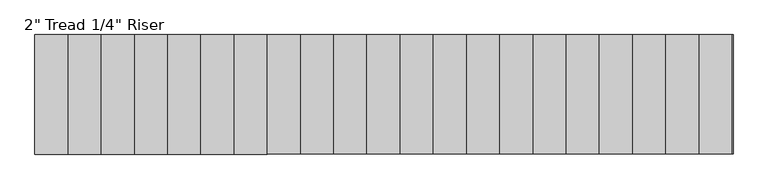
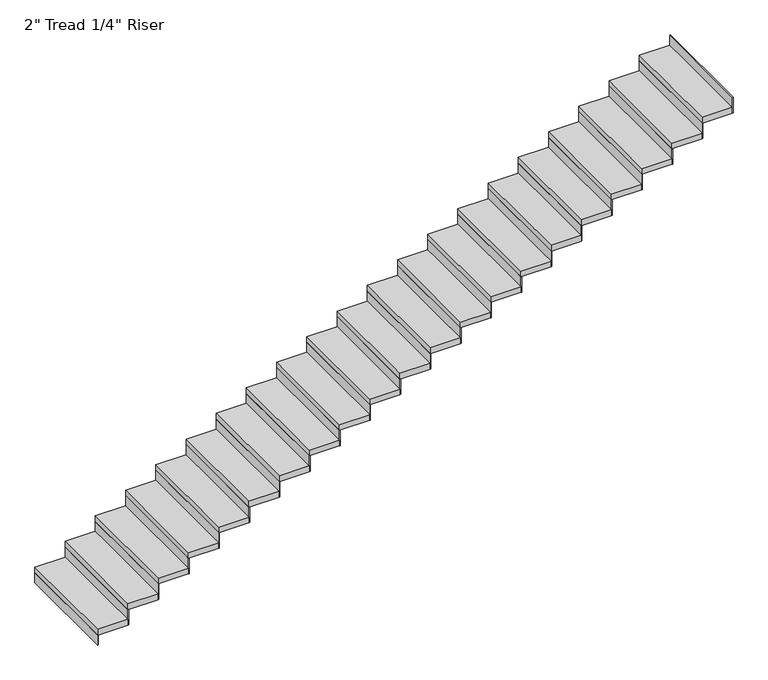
"""IFC4 building model written with IfcOpenShell, lengths in millimetres: stair flight geometry."""

import ifcopenshell
import ifcopenshell.guid

model = None  # the IFC model being written
_history = None  # IfcOwnerHistory: only IFC2X3 demands one
_inside = {}  # id of a spatial element -> (the spatial element, [elements in it])
_under = {}  # id of a project, library or spatial element -> (it, [spatial elements below it])
_declared = {}  # id of a project -> (the project, [libraries it declares])
_typed = {}  # id of a type object -> (the type object, [elements of that type])
_made_of = {}  # id of a material, layer set ... -> (it, [elements and type objects made of it])


def new_model(schema):
    """Start an empty IFC model of exactly this schema.

    Asked for "IFC4X3", IfcOpenShell would pick the latest addendum, in which some entities
    have other attributes; the version numbers below select the first issue.
    IFC2X3 requires an IfcOwnerHistory on every rooted entity: one is made here for all.
    """
    global model, _history
    if schema == "IFC4X3":
        model = ifcopenshell.file(schema_version=(4, 3, 0, 0))
    else:
        model = ifcopenshell.file(schema=schema)
    _inside.clear()
    _under.clear()
    _declared.clear()
    _typed.clear()
    _made_of.clear()
    _history = None
    if model.schema == "IFC2X3":
        org = make("IfcOrganization", Name="unknown")
        user = make(
            "IfcPersonAndOrganization",
            ThePerson=make("IfcPerson", FamilyName="unknown"),
            TheOrganization=org,
        )
        app = make(
            "IfcApplication",
            ApplicationDeveloper=org,
            Version="unknown",
            ApplicationFullName="unknown",
            ApplicationIdentifier="unknown",
        )
        _history = make(
            "IfcOwnerHistory",
            OwningUser=user,
            OwningApplication=app,
            ChangeAction="ADDED",
            CreationDate=0,
        )
    return model


def make(cls, **values):
    """One entity of the class cls with the attributes given. An attribute that is None is left unset."""
    return model.create_entity(
        cls, **{name: value for name, value in values.items() if value is not None}
    )


def rooted(cls, **values):
    """An entity with a GlobalId (a new one), such as an element, a storey or a relation."""
    return make(cls, GlobalId=ifcopenshell.guid.new(), OwnerHistory=_history, **values)


def si_unit(unit_type, name, prefix=None):
    """IfcSIUnit, for example si_unit("LENGTHUNIT", "METRE", prefix="MILLI")."""
    return make("IfcSIUnit", UnitType=unit_type, Prefix=prefix, Name=name)


def assignment(units):
    """IfcUnitAssignment: the units of a project."""
    return None if units is None else make("IfcUnitAssignment", Units=units)


def point(xyz):
    """IfcCartesianPoint."""
    return None if xyz is None else make("IfcCartesianPoint", Coordinates=xyz)


def direction(xyz):
    """IfcDirection."""
    return None if xyz is None else make("IfcDirection", DirectionRatios=xyz)


def frame(location, z_axis=None, x_axis=None):
    """IfcAxis2Placement3D, a coordinate frame: its origin and axes. An axis left out is left unset."""
    return make(
        "IfcAxis2Placement3D",
        Location=point(location),
        Axis=direction(z_axis),
        RefDirection=direction(x_axis),
    )


def origin():
    """The frame at (0, 0, 0) with its axes left unset."""
    return frame((0.0, 0.0, 0.0))


def origin_with_axes():
    """The frame at (0, 0, 0) with the z axis (0, 0, 1) and the x axis (1, 0, 0) written out."""
    return frame((0.0, 0.0, 0.0), z_axis=(0.0, 0.0, 1.0), x_axis=(1.0, 0.0, 0.0))


def place(relative_to, where):
    """IfcLocalPlacement: puts the frame where relative to a parent placement (None: the world)."""
    return make(
        "IfcLocalPlacement", PlacementRelTo=relative_to, RelativePlacement=where
    )


def context(
    kind, dimensions, precision=None, world=None, true_north=None, identifier=None
):
    """IfcGeometricRepresentationContext, for example the 3D "Model" context."""
    return make(
        "IfcGeometricRepresentationContext",
        ContextIdentifier=identifier,
        ContextType=kind,
        CoordinateSpaceDimension=dimensions,
        Precision=precision,
        WorldCoordinateSystem=world,
        TrueNorth=true_north,
    )


def project(units=None, contexts=None):
    """IfcProject with its units and contexts."""
    return rooted(
        "IfcProject",
        Name="project",
        RepresentationContexts=contexts,
        UnitsInContext=assignment(units),
    )


def spatial(cls, under=None, at=None, **own):
    """A site, building, storey or space (cls), placed at a placement, below another one or the project."""
    s = rooted(cls, ObjectPlacement=at, **own)
    if under is not None:
        _under.setdefault(under.id(), (under, []))[1].append(s)
    return s


def polyline(points):
    """IfcPolyline through the points."""
    return make("IfcPolyline", Points=[point(p) for p in points])


def outline(outer, holes=None, kind="AREA"):
    """IfcArbitraryClosedProfileDef: a profile drawn as a closed curve; with holes, ...WithVoids."""
    if holes is None:
        return make("IfcArbitraryClosedProfileDef", ProfileType=kind, OuterCurve=outer)
    return make(
        "IfcArbitraryProfileDefWithVoids",
        ProfileType=kind,
        OuterCurve=outer,
        InnerCurves=holes,
    )


def extrude(swept, where, along, depth):
    """IfcExtrudedAreaSolid: the profile swept, set in the frame where, extruded along a direction by depth."""
    return make(
        "IfcExtrudedAreaSolid",
        SweptArea=swept,
        Position=where,
        ExtrudedDirection=direction(along),
        Depth=depth,
    )


def shape(context_of_items, identifier, shape_type, items):
    """IfcShapeRepresentation: the items that make up one representation, for example the "Body"."""
    return make(
        "IfcShapeRepresentation",
        ContextOfItems=context_of_items,
        RepresentationIdentifier=identifier,
        RepresentationType=shape_type,
        Items=items,
    )


def source(mapping_origin, context_of_items, identifier, shape_type, items):
    """IfcRepresentationMap: a shape defined once, which mapped items show again and again."""
    return make(
        "IfcRepresentationMap",
        MappingOrigin=mapping_origin,
        MappedRepresentation=shape(context_of_items, identifier, shape_type, items),
    )


def transform(
    local_origin,
    x_axis=None,
    y_axis=None,
    z_axis=None,
    scale=None,
    scale2=None,
    scale3=None,
    uniform=True,
):
    """IfcCartesianTransformationOperator3D, or its non-uniform kind. x_axis, y_axis, z_axis: its Axis1, 2, 3."""
    if uniform:
        return make(
            "IfcCartesianTransformationOperator3D",
            Axis1=direction(x_axis),
            Axis2=direction(y_axis),
            LocalOrigin=point(local_origin),
            Scale=scale,
            Axis3=direction(z_axis),
        )
    return make(
        "IfcCartesianTransformationOperator3DnonUniform",
        Axis1=direction(x_axis),
        Axis2=direction(y_axis),
        LocalOrigin=point(local_origin),
        Scale=scale,
        Axis3=direction(z_axis),
        Scale2=scale2,
        Scale3=scale3,
    )


def mapped(mapping_source, mapping_target):
    """IfcMappedItem: shows the shape of a source again, moved by a transform."""
    return make(
        "IfcMappedItem", MappingSource=mapping_source, MappingTarget=mapping_target
    )


def made_of(thing, what):
    """Note that an element or type object is made of a material, layer set ...; save() writes the relation."""
    if what is not None:
        _made_of.setdefault(what.id(), (what, []))[1].append(thing)
    return thing


def element(
    cls,
    number,
    at=None,
    inside=None,
    cuts=None,
    type_object=None,
    material=None,
    context=None,
    identifier="Body",
    shape_type=None,
    held_by="IfcProductDefinitionShape",
    body=None,
    shapes=None,
    **own,
):
    """One element of the class cls, such as IfcWall. Its Tag is "e" and its number.

    at: its placement. inside: the storey or other place that contains it. cuts: it is an
    opening in that element (IfcRelVoidsElement). A single representation is given by context,
    identifier, shape_type and body (its items); several are given by shapes. held_by: the class
    of the entity that holds the representations. save() writes the other relations.
    """
    e = rooted(cls, Tag="e%d" % number, ObjectPlacement=at, **own)
    if body is not None:
        shapes = [shape(context, identifier, shape_type, body)]
    if shapes is not None:
        e.Representation = make(held_by, Representations=shapes)
    if inside is not None:
        _inside.setdefault(inside.id(), (inside, []))[1].append(e)
    if cuts is not None:
        rooted(
            "IfcRelVoidsElement", RelatingBuildingElement=cuts, RelatedOpeningElement=e
        )
    if type_object is not None:
        _typed.setdefault(type_object.id(), (type_object, []))[1].append(e)
    return made_of(e, material)


def aggregate(whole, parts):
    """IfcRelAggregates: a whole, such as a stair, and the parts it consists of."""
    return rooted("IfcRelAggregates", RelatingObject=whole, RelatedObjects=parts)


def save(model, path):
    """Write the relations noted so far, then the file.

    IfcRelAggregates (storeys below a building ...), IfcRelContainedInSpatialStructure (elements
    in a storey), IfcRelDefinesByType, IfcRelAssociatesMaterial and IfcRelDeclares: one each for
    every whole, place, type object, material and project.
    """
    for whole, parts in _under.values():
        aggregate(whole, parts)
    for where, things in _inside.values():
        rooted(
            "IfcRelContainedInSpatialStructure",
            RelatedElements=things,
            RelatingStructure=where,
        )
    for kind, things in _typed.values():
        rooted("IfcRelDefinesByType", RelatedObjects=things, RelatingType=kind)
    for what, things in _made_of.values():
        rooted("IfcRelAssociatesMaterial", RelatedObjects=things, RelatingMaterial=what)
    for by, libraries in _declared.values():
        rooted("IfcRelDeclares", RelatingContext=by, RelatedDefinitions=libraries)
    model.write(path)


def stair_flight_0f1b8569(model_context):
    return source(origin(), model_context, "Body", "SweptSolid", [
        extrude(outline(polyline([(10185.0667764, -68793.8034511), (10178.7167764, -68793.8034511), (10178.7167764, -67879.4034511), (10185.0667764, -67879.4034511), (10185.0667764, -68793.8034511)])), origin_with_axes(), (0.0, 0.0, 1.0), 87.7454545),
        extrude(outline(polyline([(10432.7167764, -67879.4034511), (10432.7167764, -68793.8034511), (10178.7167764, -68793.8034511), (10178.7167764, -67879.4034511), (10432.7167764, -67879.4034511)])), frame((0.0, 0.0, 87.7454545), z_axis=(0.0, 0.0, 1.0), x_axis=(1.0, 0.0, 0.0)), (0.0, 0.0, 1.0), 50.8),
        extrude(outline(polyline([(10439.0667764, -68793.8034511), (10432.7167764, -68793.8034511), (10432.7167764, -67879.4034511), (10439.0667764, -67879.4034511), (10439.0667764, -68793.8034511)])), frame((0.0, 0.0, 87.7454545), z_axis=(0.0, 0.0, 1.0), x_axis=(1.0, 0.0, 0.0)), (0.0, 0.0, 1.0), 138.5454545),
        extrude(outline(polyline([(10686.7167764, -67879.4034511), (10686.7167764, -68793.8034511), (10432.7167764, -68793.8034511), (10432.7167764, -67879.4034511), (10686.7167764, -67879.4034511)])), frame((0.0, 0.0, 226.2909091), z_axis=(0.0, 0.0, 1.0), x_axis=(1.0, 0.0, 0.0)), (0.0, 0.0, 1.0), 50.8),
        extrude(outline(polyline([(10693.0667764, -68793.8034511), (10686.7167764, -68793.8034511), (10686.7167764, -67879.4034511), (10693.0667764, -67879.4034511), (10693.0667764, -68793.8034511)])), frame((0.0, 0.0, 226.2909091), z_axis=(0.0, 0.0, 1.0), x_axis=(1.0, 0.0, 0.0)), (0.0, 0.0, 1.0), 138.5454545),
        extrude(outline(polyline([(10940.7167764, -67879.4034511), (10940.7167764, -68793.8034511), (10686.7167764, -68793.8034511), (10686.7167764, -67879.4034511), (10940.7167764, -67879.4034511)])), frame((0.0, 0.0, 364.8363636), z_axis=(0.0, 0.0, 1.0), x_axis=(1.0, 0.0, 0.0)), (0.0, 0.0, 1.0), 50.8),
        extrude(outline(polyline([(10947.0667764, -68793.8034511), (10940.7167764, -68793.8034511), (10940.7167764, -67879.4034511), (10947.0667764, -67879.4034511), (10947.0667764, -68793.8034511)])), frame((0.0, 0.0, 364.8363636), z_axis=(0.0, 0.0, 1.0), x_axis=(1.0, 0.0, 0.0)), (0.0, 0.0, 1.0), 138.5454545),
        extrude(outline(polyline([(11194.7167764, -67879.4034511), (11194.7167764, -68793.8034511), (10940.7167764, -68793.8034511), (10940.7167764, -67879.4034511), (11194.7167764, -67879.4034511)])), frame((0.0, 0.0, 503.3818182), z_axis=(0.0, 0.0, 1.0), x_axis=(1.0, 0.0, 0.0)), (0.0, 0.0, 1.0), 50.8),
        extrude(outline(polyline([(11201.0667764, -68793.8034511), (11194.7167764, -68793.8034511), (11194.7167764, -67879.4034511), (11201.0667764, -67879.4034511), (11201.0667764, -68793.8034511)])), frame((0.0, 0.0, 503.3818182), z_axis=(0.0, 0.0, 1.0), x_axis=(1.0, 0.0, 0.0)), (0.0, 0.0, 1.0), 138.5454545),
        extrude(outline(polyline([(11448.7167764, -67879.4034511), (11448.7167764, -68793.8034511), (11194.7167764, -68793.8034511), (11194.7167764, -67879.4034511), (11448.7167764, -67879.4034511)])), frame((0.0, 0.0, 641.9272727), z_axis=(0.0, 0.0, 1.0), x_axis=(1.0, 0.0, 0.0)), (0.0, 0.0, 1.0), 50.8),
        extrude(outline(polyline([(11455.0667764, -68793.8034511), (11448.7167764, -68793.8034511), (11448.7167764, -67879.4034511), (11455.0667764, -67879.4034511), (11455.0667764, -68793.8034511)])), frame((0.0, 0.0, 641.9272727), z_axis=(0.0, 0.0, 1.0), x_axis=(1.0, 0.0, 0.0)), (0.0, 0.0, 1.0), 138.5454545),
        extrude(outline(polyline([(11702.7167764, -67879.4034511), (11702.7167764, -68793.8034511), (11448.7167764, -68793.8034511), (11448.7167764, -67879.4034511), (11702.7167764, -67879.4034511)])), frame((0.0, 0.0, 780.4727273), z_axis=(0.0, 0.0, 1.0), x_axis=(1.0, 0.0, 0.0)), (0.0, 0.0, 1.0), 50.8),
        extrude(outline(polyline([(11709.0667764, -68793.8034511), (11702.7167764, -68793.8034511), (11702.7167764, -67879.4034511), (11709.0667764, -67879.4034511), (11709.0667764, -68793.8034511)])), frame((0.0, 0.0, 780.4727273), z_axis=(0.0, 0.0, 1.0), x_axis=(1.0, 0.0, 0.0)), (0.0, 0.0, 1.0), 138.5454545),
        extrude(outline(polyline([(11956.7167764, -67879.4034511), (11956.7167764, -68793.8034511), (11702.7167764, -68793.8034511), (11702.7167764, -67879.4034511), (11956.7167764, -67879.4034511)])), frame((0.0, 0.0, 919.0181818), z_axis=(0.0, 0.0, 1.0), x_axis=(1.0, 0.0, 0.0)), (0.0, 0.0, 1.0), 50.8),
        extrude(outline(polyline([(11963.0667764, -68793.8034511), (11956.7167764, -68793.8034511), (11956.7167764, -67879.4034511), (11963.0667764, -67879.4034511), (11963.0667764, -68793.8034511)])), frame((0.0, 0.0, 919.0181818), z_axis=(0.0, 0.0, 1.0), x_axis=(1.0, 0.0, 0.0)), (0.0, 0.0, 1.0), 138.5454545),
        extrude(outline(polyline([(12210.7167764, -67879.4034511), (12210.7167764, -68793.8034511), (11956.7167764, -68793.8034511), (11956.7167764, -67879.4034511), (12210.7167764, -67879.4034511)])), frame((0.0, 0.0, 1057.5636364), z_axis=(0.0, 0.0, 1.0), x_axis=(1.0, 0.0, 0.0)), (0.0, 0.0, 1.0), 50.8),
        extrude(outline(polyline([(12217.0667764, -68793.8034511), (12210.7167764, -68793.8034511), (12210.7167764, -67879.4034511), (12217.0667764, -67879.4034511), (12217.0667764, -68793.8034511)])), frame((0.0, 0.0, 1057.5636364), z_axis=(0.0, 0.0, 1.0), x_axis=(1.0, 0.0, 0.0)), (0.0, 0.0, 1.0), 138.5454545),
        extrude(outline(polyline([(12464.7167764, -67879.4034511), (12464.7167764, -68793.8034511), (12210.7167764, -68793.8034511), (12210.7167764, -67879.4034511), (12464.7167764, -67879.4034511)])), frame((0.0, 0.0, 1196.1090909), z_axis=(0.0, 0.0, 1.0), x_axis=(1.0, 0.0, 0.0)), (0.0, 0.0, 1.0), 50.8),
        extrude(outline(polyline([(12471.0667764, -68793.8034511), (12464.7167764, -68793.8034511), (12464.7167764, -67879.4034511), (12471.0667764, -67879.4034511), (12471.0667764, -68793.8034511)])), frame((0.0, 0.0, 1196.1090909), z_axis=(0.0, 0.0, 1.0), x_axis=(1.0, 0.0, 0.0)), (0.0, 0.0, 1.0), 138.5454545),
        extrude(outline(polyline([(12718.7167764, -67879.4034511), (12718.7167764, -68793.8034511), (12464.7167764, -68793.8034511), (12464.7167764, -67879.4034511), (12718.7167764, -67879.4034511)])), frame((0.0, 0.0, 1334.6545455), z_axis=(0.0, 0.0, 1.0), x_axis=(1.0, 0.0, 0.0)), (0.0, 0.0, 1.0), 50.8),
        extrude(outline(polyline([(12725.0667764, -68793.8034511), (12718.7167764, -68793.8034511), (12718.7167764, -67879.4034511), (12725.0667764, -67879.4034511), (12725.0667764, -68793.8034511)])), frame((0.0, 0.0, 1334.6545455), z_axis=(0.0, 0.0, 1.0), x_axis=(1.0, 0.0, 0.0)), (0.0, 0.0, 1.0), 138.5454545),
        extrude(outline(polyline([(12972.7167764, -67879.4034511), (12972.7167764, -68793.8034511), (12718.7167764, -68793.8034511), (12718.7167764, -67879.4034511), (12972.7167764, -67879.4034511)])), frame((0.0, 0.0, 1473.2), z_axis=(0.0, 0.0, 1.0), x_axis=(1.0, 0.0, 0.0)), (0.0, 0.0, 1.0), 50.8),
        extrude(outline(polyline([(12979.0667764, -68793.8034511), (12972.7167764, -68793.8034511), (12972.7167764, -67879.4034511), (12979.0667764, -67879.4034511), (12979.0667764, -68793.8034511)])), frame((0.0, 0.0, 1473.2), z_axis=(0.0, 0.0, 1.0), x_axis=(1.0, 0.0, 0.0)), (0.0, 0.0, 1.0), 138.5454545),
        extrude(outline(polyline([(13226.7167764, -67879.4034511), (13226.7167764, -68793.8034511), (12972.7167764, -68793.8034511), (12972.7167764, -67879.4034511), (13226.7167764, -67879.4034511)])), frame((0.0, 0.0, 1611.7454545), z_axis=(0.0, 0.0, 1.0), x_axis=(1.0, 0.0, 0.0)), (0.0, 0.0, 1.0), 50.8),
        extrude(outline(polyline([(13233.0667764, -68793.8034511), (13226.7167764, -68793.8034511), (13226.7167764, -67879.4034511), (13233.0667764, -67879.4034511), (13233.0667764, -68793.8034511)])), frame((0.0, 0.0, 1611.7454545), z_axis=(0.0, 0.0, 1.0), x_axis=(1.0, 0.0, 0.0)), (0.0, 0.0, 1.0), 138.5454545),
        extrude(outline(polyline([(13480.7167764, -67879.4034511), (13480.7167764, -68793.8034511), (13226.7167764, -68793.8034511), (13226.7167764, -67879.4034511), (13480.7167764, -67879.4034511)])), frame((0.0, 0.0, 1750.2909091), z_axis=(0.0, 0.0, 1.0), x_axis=(1.0, 0.0, 0.0)), (0.0, 0.0, 1.0), 50.8),
        extrude(outline(polyline([(13487.0667764, -68793.8034511), (13480.7167764, -68793.8034511), (13480.7167764, -67879.4034511), (13487.0667764, -67879.4034511), (13487.0667764, -68793.8034511)])), frame((0.0, 0.0, 1750.2909091), z_axis=(0.0, 0.0, 1.0), x_axis=(1.0, 0.0, 0.0)), (0.0, 0.0, 1.0), 138.5454545),
        extrude(outline(polyline([(13734.7167764, -67879.4034511), (13734.7167764, -68793.8034511), (13480.7167764, -68793.8034511), (13480.7167764, -67879.4034511), (13734.7167764, -67879.4034511)])), frame((0.0, 0.0, 1888.8363636), z_axis=(0.0, 0.0, 1.0), x_axis=(1.0, 0.0, 0.0)), (0.0, 0.0, 1.0), 50.8),
        extrude(outline(polyline([(13741.0667764, -68793.8034511), (13734.7167764, -68793.8034511), (13734.7167764, -67879.4034511), (13741.0667764, -67879.4034511), (13741.0667764, -68793.8034511)])), frame((0.0, 0.0, 1888.8363636), z_axis=(0.0, 0.0, 1.0), x_axis=(1.0, 0.0, 0.0)), (0.0, 0.0, 1.0), 138.5454545),
        extrude(outline(polyline([(13988.7167764, -67879.4034511), (13988.7167764, -68793.8034511), (13734.7167764, -68793.8034511), (13734.7167764, -67879.4034511), (13988.7167764, -67879.4034511)])), frame((0.0, 0.0, 2027.3818182), z_axis=(0.0, 0.0, 1.0), x_axis=(1.0, 0.0, 0.0)), (0.0, 0.0, 1.0), 50.8),
        extrude(outline(polyline([(13995.0667764, -68793.8034511), (13988.7167764, -68793.8034511), (13988.7167764, -67879.4034511), (13995.0667764, -67879.4034511), (13995.0667764, -68793.8034511)])), frame((0.0, 0.0, 2027.3818182), z_axis=(0.0, 0.0, 1.0), x_axis=(1.0, 0.0, 0.0)), (0.0, 0.0, 1.0), 138.5454545),
        extrude(outline(polyline([(14242.7167764, -67879.4034511), (14242.7167764, -68793.8034511), (13988.7167764, -68793.8034511), (13988.7167764, -67879.4034511), (14242.7167764, -67879.4034511)])), frame((0.0, 0.0, 2165.9272727), z_axis=(0.0, 0.0, 1.0), x_axis=(1.0, 0.0, 0.0)), (0.0, 0.0, 1.0), 50.8),
        extrude(outline(polyline([(14249.0667764, -68793.8034511), (14242.7167764, -68793.8034511), (14242.7167764, -67879.4034511), (14249.0667764, -67879.4034511), (14249.0667764, -68793.8034511)])), frame((0.0, 0.0, 2165.9272727), z_axis=(0.0, 0.0, 1.0), x_axis=(1.0, 0.0, 0.0)), (0.0, 0.0, 1.0), 138.5454545),
        extrude(outline(polyline([(14496.7167764, -67879.4034511), (14496.7167764, -68793.8034511), (14242.7167764, -68793.8034511), (14242.7167764, -67879.4034511), (14496.7167764, -67879.4034511)])), frame((0.0, 0.0, 2304.4727273), z_axis=(0.0, 0.0, 1.0), x_axis=(1.0, 0.0, 0.0)), (0.0, 0.0, 1.0), 50.8),
        extrude(outline(polyline([(14503.0667764, -68793.8034511), (14496.7167764, -68793.8034511), (14496.7167764, -67879.4034511), (14503.0667764, -67879.4034511), (14503.0667764, -68793.8034511)])), frame((0.0, 0.0, 2304.4727273), z_axis=(0.0, 0.0, 1.0), x_axis=(1.0, 0.0, 0.0)), (0.0, 0.0, 1.0), 138.5454545),
        extrude(outline(polyline([(14750.7167764, -67879.4034511), (14750.7167764, -68793.8034511), (14496.7167764, -68793.8034511), (14496.7167764, -67879.4034511), (14750.7167764, -67879.4034511)])), frame((0.0, 0.0, 2443.0181818), z_axis=(0.0, 0.0, 1.0), x_axis=(1.0, 0.0, 0.0)), (0.0, 0.0, 1.0), 50.8),
        extrude(outline(polyline([(14757.0667764, -68793.8034511), (14750.7167764, -68793.8034511), (14750.7167764, -67879.4034511), (14757.0667764, -67879.4034511), (14757.0667764, -68793.8034511)])), frame((0.0, 0.0, 2443.0181818), z_axis=(0.0, 0.0, 1.0), x_axis=(1.0, 0.0, 0.0)), (0.0, 0.0, 1.0), 138.5454545),
        extrude(outline(polyline([(15004.7167764, -67879.4034511), (15004.7167764, -68793.8034511), (14750.7167764, -68793.8034511), (14750.7167764, -67879.4034511), (15004.7167764, -67879.4034511)])), frame((0.0, 0.0, 2581.5636364), z_axis=(0.0, 0.0, 1.0), x_axis=(1.0, 0.0, 0.0)), (0.0, 0.0, 1.0), 50.8),
        extrude(outline(polyline([(15011.0667764, -68793.8034511), (15004.7167764, -68793.8034511), (15004.7167764, -67879.4034511), (15011.0667764, -67879.4034511), (15011.0667764, -68793.8034511)])), frame((0.0, 0.0, 2581.5636364), z_axis=(0.0, 0.0, 1.0), x_axis=(1.0, 0.0, 0.0)), (0.0, 0.0, 1.0), 138.5454545),
        extrude(outline(polyline([(15258.7167764, -67879.4034511), (15258.7167764, -68793.8034511), (15004.7167764, -68793.8034511), (15004.7167764, -67879.4034511), (15258.7167764, -67879.4034511)])), frame((0.0, 0.0, 2720.1090909), z_axis=(0.0, 0.0, 1.0), x_axis=(1.0, 0.0, 0.0)), (0.0, 0.0, 1.0), 50.8),
        extrude(outline(polyline([(15265.0667764, -68793.8034511), (15258.7167764, -68793.8034511), (15258.7167764, -67879.4034511), (15265.0667764, -67879.4034511), (15265.0667764, -68793.8034511)])), frame((0.0, 0.0, 2720.1090909), z_axis=(0.0, 0.0, 1.0), x_axis=(1.0, 0.0, 0.0)), (0.0, 0.0, 1.0), 138.5454545),
        extrude(outline(polyline([(15519.0667764, -68793.8034511), (15512.7167764, -68793.8034511), (15512.7167764, -67879.4034511), (15519.0667764, -67879.4034511), (15519.0667764, -68793.8034511)])), frame((0.0, 0.0, 2858.6545455), z_axis=(0.0, 0.0, 1.0), x_axis=(1.0, 0.0, 0.0)), (0.0, 0.0, 1.0), 138.5454545),
        extrude(outline(polyline([(15512.7167764, -67879.4034511), (15512.7167764, -68793.8034511), (15258.7167764, -68793.8034511), (15258.7167764, -67879.4034511), (15512.7167764, -67879.4034511)])), frame((0.0, 0.0, 2858.6545455), z_axis=(0.0, 0.0, 1.0), x_axis=(1.0, 0.0, 0.0)), (0.0, 0.0, 1.0), 50.8),
    ])


if __name__ == "__main__":
    model = new_model("IFC4")
    model_context = context("Model", 3, world=origin())
    ifc_project = project(units=[si_unit("LENGTHUNIT", "METRE", prefix="MILLI")], contexts=[model_context])
    site = spatial("IfcSite", under=ifc_project)
    building = spatial("IfcBuilding", under=site)
    placement = place(None, origin())
    stair_flight_shape = stair_flight_0f1b8569(model_context)
    element("IfcStairFlight", 1, ObjectType="2\" Tread 1/4\" Riser", at=placement, inside=building, context=model_context, shape_type="MappedRepresentation", body=[
        mapped(stair_flight_shape, transform((0.0, 0.0, 0.0), x_axis=(1.0, 0.0, 0.0), y_axis=(0.0, 1.0, 0.0), z_axis=(0.0, 0.0, 1.0))),
    ])
    save(model, "model.ifc")
